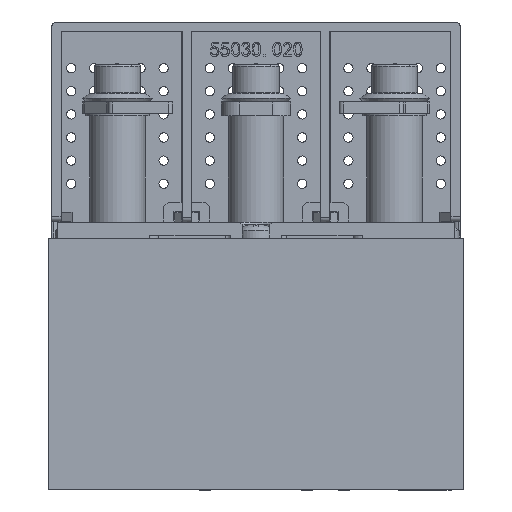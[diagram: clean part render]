
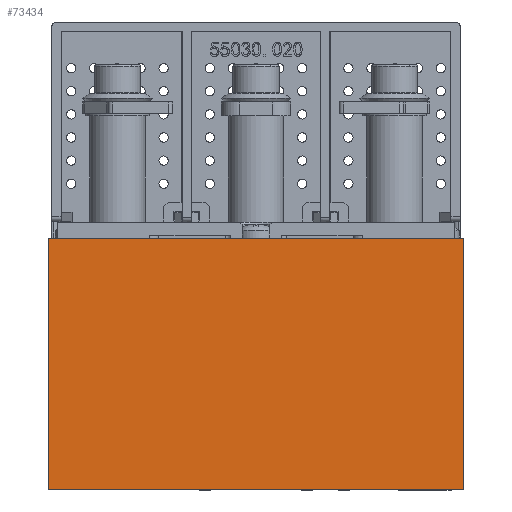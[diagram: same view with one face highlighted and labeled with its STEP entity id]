
A CAD part, left-side view. The second image highlights one B-rep face of the part: STEP entity #73434.
In plain terms, the highlighted planar face has unit normal (-1, 0, 0).
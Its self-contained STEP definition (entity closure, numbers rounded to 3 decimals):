
#1542 = ORIENTED_EDGE ( 'NONE', *, *, #46878, .T. ) ;
#3614 = DIRECTION ( 'NONE',  ( 0., -1., 0. ) ) ;
#4672 = EDGE_CURVE ( 'NONE', #49669, #80835, #48983, .T. ) ;
#5780 = LINE ( 'NONE', #85808, #72681 ) ;
#10827 = ORIENTED_EDGE ( 'NONE', *, *, #4672, .F. ) ;
#12373 = CARTESIAN_POINT ( 'NONE',  ( -124.11, -39.537, 220.35 ) ) ;
#13564 = EDGE_CURVE ( 'NONE', #22938, #49669, #25689, .T. ) ;
#17232 = CARTESIAN_POINT ( 'NONE',  ( -124.11, 0., 220.35 ) ) ;
#19720 = VECTOR ( 'NONE', #3614, 1000. ) ;
#22938 = VERTEX_POINT ( 'NONE', #70968 ) ;
#25689 = LINE ( 'NONE', #17232, #44237 ) ;
#26457 = CARTESIAN_POINT ( 'NONE',  ( -124.11, 50.463, 165.85 ) ) ;
#33361 = DIRECTION ( 'NONE',  ( 0., -1., 0. ) ) ;
#36244 = ORIENTED_EDGE ( 'NONE', *, *, #13564, .F. ) ;
#36251 = CARTESIAN_POINT ( 'NONE',  ( -124.11, -39.537, 165.85 ) ) ;
#38930 = DIRECTION ( 'NONE',  ( 0., 0., -1. ) ) ;
#39563 = ORIENTED_EDGE ( 'NONE', *, *, #47024, .T. ) ;
#41957 = DIRECTION ( 'NONE',  ( 0., 0., 1. ) ) ;
#43986 = CARTESIAN_POINT ( 'NONE',  ( -124.11, 50.463, 165.85 ) ) ;
#44237 = VECTOR ( 'NONE', #33361, 1000. ) ;
#46878 = EDGE_CURVE ( 'NONE', #48551, #80835, #86580, .T. ) ;
#47024 = EDGE_CURVE ( 'NONE', #22938, #48551, #5780, .T. ) ;
#48551 = VERTEX_POINT ( 'NONE', #43986 ) ;
#48983 = LINE ( 'NONE', #83020, #50072 ) ;
#49669 = VERTEX_POINT ( 'NONE', #12373 ) ;
#50072 = VECTOR ( 'NONE', #38930, 1000. ) ;
#53062 = EDGE_LOOP ( 'NONE', ( #1542, #10827, #36244, #39563 ) ) ;
#60023 = AXIS2_PLACEMENT_3D ( 'NONE', #26457, #86061, #41957 ) ;
#70968 = CARTESIAN_POINT ( 'NONE',  ( -124.11, 50.463, 220.35 ) ) ;
#72681 = VECTOR ( 'NONE', #79340, 1000. ) ;
#73434 = ADVANCED_FACE ( 'NONE', ( #73631 ), #85123, .T. ) ;
#73631 = FACE_OUTER_BOUND ( 'NONE', #53062, .T. ) ;
#79340 = DIRECTION ( 'NONE',  ( 0., 0., -1. ) ) ;
#80835 = VERTEX_POINT ( 'NONE', #36251 ) ;
#83020 = CARTESIAN_POINT ( 'NONE',  ( -124.11, -39.537, 165.85 ) ) ;
#85123 = PLANE ( 'NONE',  #60023 ) ;
#85808 = CARTESIAN_POINT ( 'NONE',  ( -124.11, 50.463, 165.85 ) ) ;
#86061 = DIRECTION ( 'NONE',  ( -1., 0., 0. ) ) ;
#86580 = LINE ( 'NONE', #90662, #19720 ) ;
#90662 = CARTESIAN_POINT ( 'NONE',  ( -124.11, 50.463, 165.85 ) ) ;
